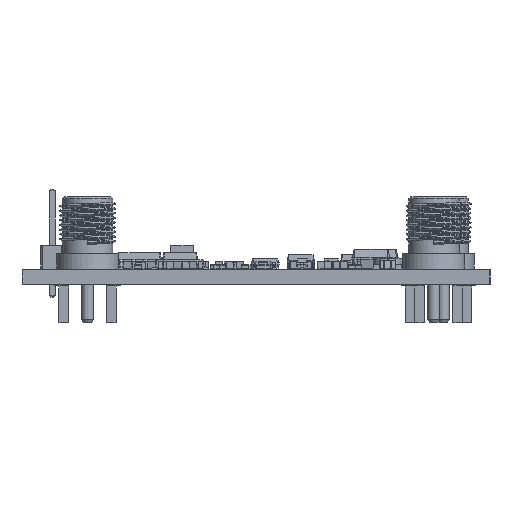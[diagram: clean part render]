
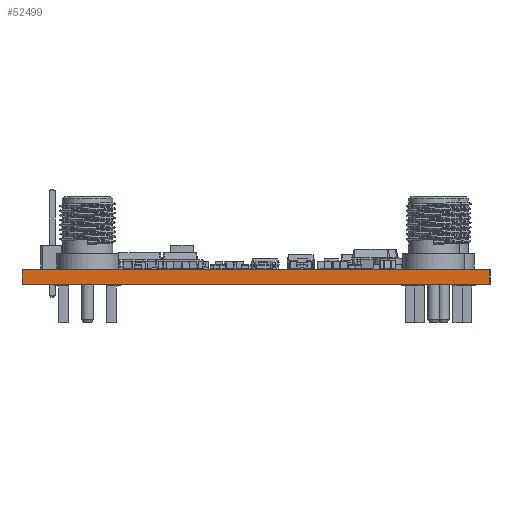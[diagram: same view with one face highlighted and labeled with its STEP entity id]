
A CAD part, left-side view. The second image highlights one B-rep face of the part: STEP entity #52499.
In plain terms, the highlighted planar face has unit normal (-1, 0, 0).
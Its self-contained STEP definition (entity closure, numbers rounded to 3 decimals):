
#52443 = VERTEX_POINT('',#52444);
#52444 = CARTESIAN_POINT('',(100.,-150.,1.6));
#52450 = EDGE_CURVE('',#52451,#52443,#52453,.T.);
#52451 = VERTEX_POINT('',#52452);
#52452 = CARTESIAN_POINT('',(100.,-150.,0.));
#52453 = LINE('',#52454,#52455);
#52454 = CARTESIAN_POINT('',(100.,-150.,0.));
#52455 = VECTOR('',#52456,1.);
#52456 = DIRECTION('',(0.,0.,1.));
#52499 = ADVANCED_FACE('',(#52500),#52525,.T.);
#52500 = FACE_BOUND('',#52501,.T.);
#52501 = EDGE_LOOP('',(#52502,#52503,#52511,#52519));
#52502 = ORIENTED_EDGE('',*,*,#52450,.T.);
#52503 = ORIENTED_EDGE('',*,*,#52504,.T.);
#52504 = EDGE_CURVE('',#52443,#52505,#52507,.T.);
#52505 = VERTEX_POINT('',#52506);
#52506 = CARTESIAN_POINT('',(100.,-100.,1.6));
#52507 = LINE('',#52508,#52509);
#52508 = CARTESIAN_POINT('',(100.,-150.,1.6));
#52509 = VECTOR('',#52510,1.);
#52510 = DIRECTION('',(0.,1.,0.));
#52511 = ORIENTED_EDGE('',*,*,#52512,.F.);
#52512 = EDGE_CURVE('',#52513,#52505,#52515,.T.);
#52513 = VERTEX_POINT('',#52514);
#52514 = CARTESIAN_POINT('',(100.,-100.,0.));
#52515 = LINE('',#52516,#52517);
#52516 = CARTESIAN_POINT('',(100.,-100.,0.));
#52517 = VECTOR('',#52518,1.);
#52518 = DIRECTION('',(0.,0.,1.));
#52519 = ORIENTED_EDGE('',*,*,#52520,.F.);
#52520 = EDGE_CURVE('',#52451,#52513,#52521,.T.);
#52521 = LINE('',#52522,#52523);
#52522 = CARTESIAN_POINT('',(100.,-150.,0.));
#52523 = VECTOR('',#52524,1.);
#52524 = DIRECTION('',(0.,1.,0.));
#52525 = PLANE('',#52526);
#52526 = AXIS2_PLACEMENT_3D('',#52527,#52528,#52529);
#52527 = CARTESIAN_POINT('',(100.,-150.,0.));
#52528 = DIRECTION('',(-1.,0.,0.));
#52529 = DIRECTION('',(0.,1.,0.));
